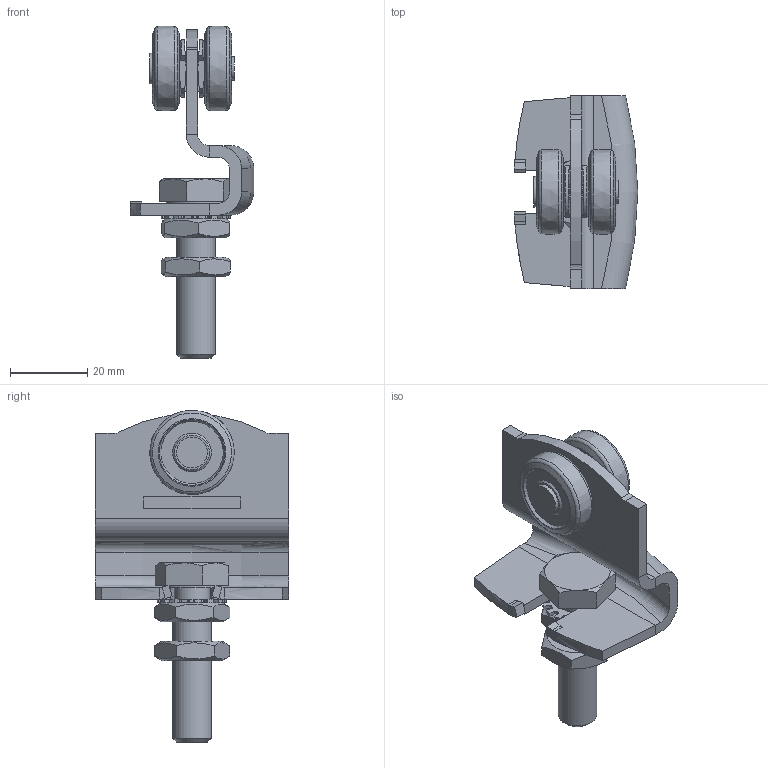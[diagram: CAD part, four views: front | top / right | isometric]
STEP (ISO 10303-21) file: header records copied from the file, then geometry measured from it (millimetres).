
FILE_DESCRIPTION(/* description */ ('Einfachrolle Nr.0 Amoniak'),/* implementation_level */ '2;1');
FILE_NAME(/* name */ 'D:\Public\STP\010336311_TP.stp',/* time_stamp */ '2020-05-13T15:09:55+02:00',/* author */ ('O. Loukota'),/* organization */ (''),/* preprocessor_version */ 'ST-DEVELOPER v17.2',/* originating_system */ 'Autodesk Inventor 2019',/* authorisation */ '');
FILE_SCHEMA (('AUTOMOTIVE_DESIGN { 1 0 10303 214 3 1 1 }'));
Length unit declared in the file: millimetre
Products named in the file (8): 010336311; 337000111; 336290000; 000303234; 000304010; DIN 6798 - A  10,5; DIN EN ISO 4017 - M10  x 40; DIN EN ISO 4035 - M10
Assembly tree (10 placements, depth 2):
  010336311
    337000111
    336290000  x2
    000303234  x2
    000304010
    DIN 6798 - A  10,5
    DIN EN ISO 4017 - M10  x 40
    DIN EN ISO 4035 - M10  x2
Bounding box: 32 x 50 x 86 mm (x, y, z)
Volume: 22940.1 mm3; surface area: 16059.1 mm2
Topology: 10 solids, 10 shells, 287 faces, 765 edges, 508 vertices
Faces by surface type: plane 143, cylinder 97, cone 34, torus 9, bspline 4
Full cylindrical faces by diameter (mm): 6 x3, 6.1 x2, 8 x1, 8.376 x2, 9.188 x1, 10 x1, 10.5 x1, 15.4 x1
Entity records: 8369 total; most frequent: CARTESIAN_POINT 1855, DIRECTION 1376, ORIENTED_EDGE 1292, EDGE_CURVE 646, AXIS2_PLACEMENT_3D 514, VERTEX_POINT 426, LINE 348, VECTOR 348
